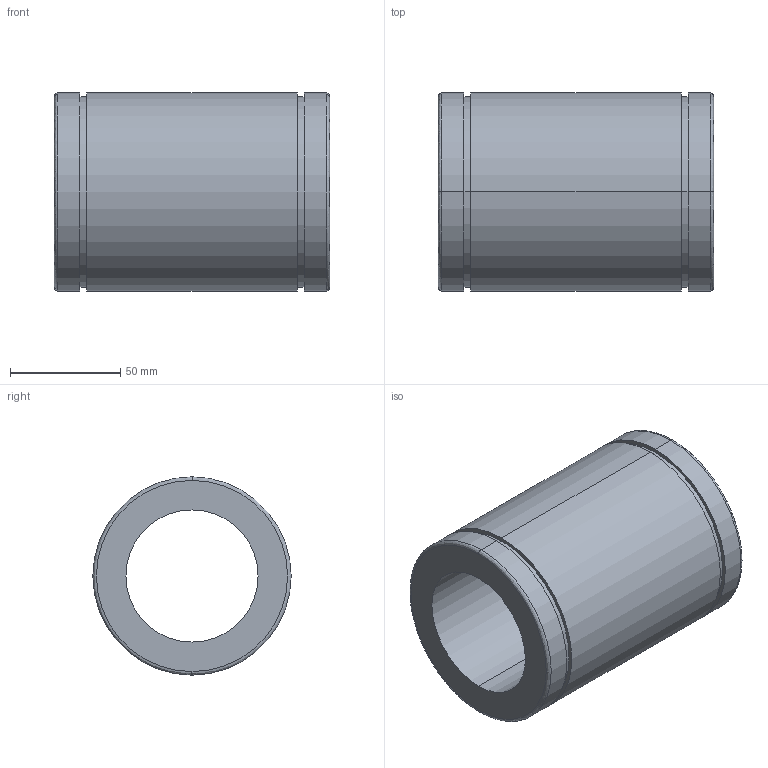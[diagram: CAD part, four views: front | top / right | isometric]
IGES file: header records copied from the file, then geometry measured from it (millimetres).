
Start section: 3D InterOp IGES (Version 21 0 1), Spatial Corp. Copyright (c) 1999-2007.
Global section: file name: L-60V.igs; native system: Spatial Corp.; preprocessor: 3D InterOp GENERIC/IGES 3.0; author: Noname; organization: Noname; date: 20220516.093705; units: millimetre
Bounding box: 125 x 90 x 90 mm (x, y, z)
Surface area: 67454.3 mm2 (no closed solid volume)
Topology: 0 solids, 0 shells, 22 faces, 88 edges, 88 vertices
Faces by surface type: revolution 16, extrusion 6
